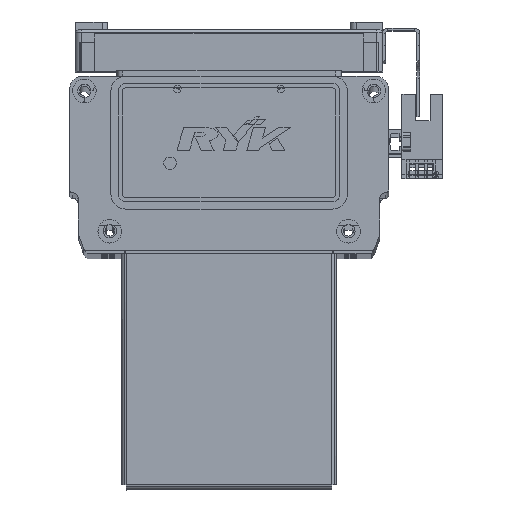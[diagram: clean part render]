
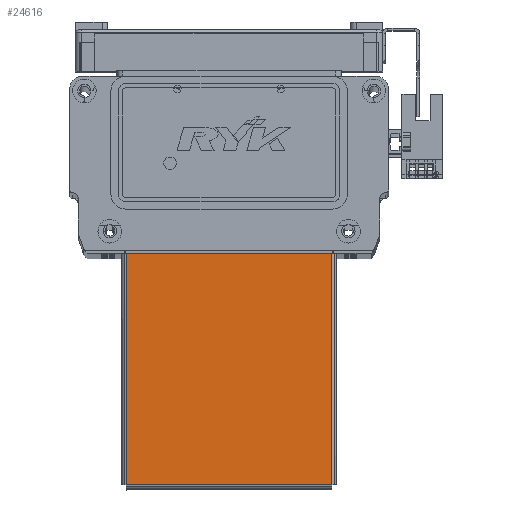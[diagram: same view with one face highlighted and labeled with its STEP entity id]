
A CAD part, top view. The second image highlights one B-rep face of the part: STEP entity #24616.
In plain terms, the highlighted planar face has unit normal (0, 0, 1) as drawn and (0, 1, 0) by its records, which use the part's own axes.
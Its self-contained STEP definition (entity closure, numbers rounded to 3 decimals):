
#6325 = ORIENTED_EDGE ( 'NONE', *, *, #30779, .T. ) ;
#6329 = ORIENTED_EDGE ( 'NONE', *, *, #30618, .T. ) ;
#6348 = ORIENTED_EDGE ( 'NONE', *, *, #30781, .T. ) ;
#6378 = ORIENTED_EDGE ( 'NONE', *, *, #30725, .T. ) ;
#17917 = AXIS2_PLACEMENT_3D ( 'NONE', #27411, #27385, #27360 ) ;
#22378 = CARTESIAN_POINT ( 'NONE',  ( -35.5, 0., -39.5 ) ) ;
#22453 = DIRECTION ( 'NONE',  ( -1., 0., 0. ) ) ;
#22705 = CARTESIAN_POINT ( 'NONE',  ( -34.793, 0., 38.763 ) ) ;
#22706 = DIRECTION ( 'NONE',  ( 1., 0., 0. ) ) ;
#22724 = DIRECTION ( 'NONE',  ( 0., 0., -1. ) ) ;
#22736 = CARTESIAN_POINT ( 'NONE',  ( -34.763, 0., -39.5 ) ) ;
#22742 = CARTESIAN_POINT ( 'NONE',  ( 34.763, 0., 38.793 ) ) ;
#22747 = DIRECTION ( 'NONE',  ( 0., 0., 1. ) ) ;
#24108 = VECTOR ( 'NONE', #22453, 1000. ) ;
#24133 = LINE ( 'NONE', #22378, #24108 ) ;
#24147 = VECTOR ( 'NONE', #22706, 1000. ) ;
#24185 = LINE ( 'NONE', #22705, #24147 ) ;
#24200 = LINE ( 'NONE', #22742, #24231 ) ;
#24231 = VECTOR ( 'NONE', #22724, 1000. ) ;
#24232 = LINE ( 'NONE', #22736, #24251 ) ;
#24251 = VECTOR ( 'NONE', #22747, 1000. ) ;
#24616 = ADVANCED_FACE ( 'NONE', ( #46321 ), #27359, .T. ) ;
#27359 = PLANE ( 'NONE',  #17917 ) ;
#27360 = DIRECTION ( 'NONE',  ( 0., 0., 1. ) ) ;
#27385 = DIRECTION ( 'NONE',  ( 0., 1., 0. ) ) ;
#27411 = CARTESIAN_POINT ( 'NONE',  ( 0., 0., 0. ) ) ;
#30618 = EDGE_CURVE ( 'NONE', #37125, #37103, #24133, .T. ) ;
#30725 = EDGE_CURVE ( 'NONE', #37138, #37099, #24185, .T. ) ;
#30779 = EDGE_CURVE ( 'NONE', #37099, #37125, #24200, .T. ) ;
#30781 = EDGE_CURVE ( 'NONE', #37103, #37138, #24232, .T. ) ;
#37099 = VERTEX_POINT ( 'NONE', #52740 ) ;
#37103 = VERTEX_POINT ( 'NONE', #52693 ) ;
#37125 = VERTEX_POINT ( 'NONE', #52707 ) ;
#37138 = VERTEX_POINT ( 'NONE', #52798 ) ;
#45017 = EDGE_LOOP ( 'NONE', ( #6348, #6378, #6325, #6329 ) ) ;
#46321 = FACE_OUTER_BOUND ( 'NONE', #45017, .T. ) ;
#52693 = CARTESIAN_POINT ( 'NONE',  ( -34.763, 0., -39.5 ) ) ;
#52707 = CARTESIAN_POINT ( 'NONE',  ( 34.763, 0., -39.5 ) ) ;
#52740 = CARTESIAN_POINT ( 'NONE',  ( 34.763, 0., 38.763 ) ) ;
#52798 = CARTESIAN_POINT ( 'NONE',  ( -34.763, 0., 38.763 ) ) ;
